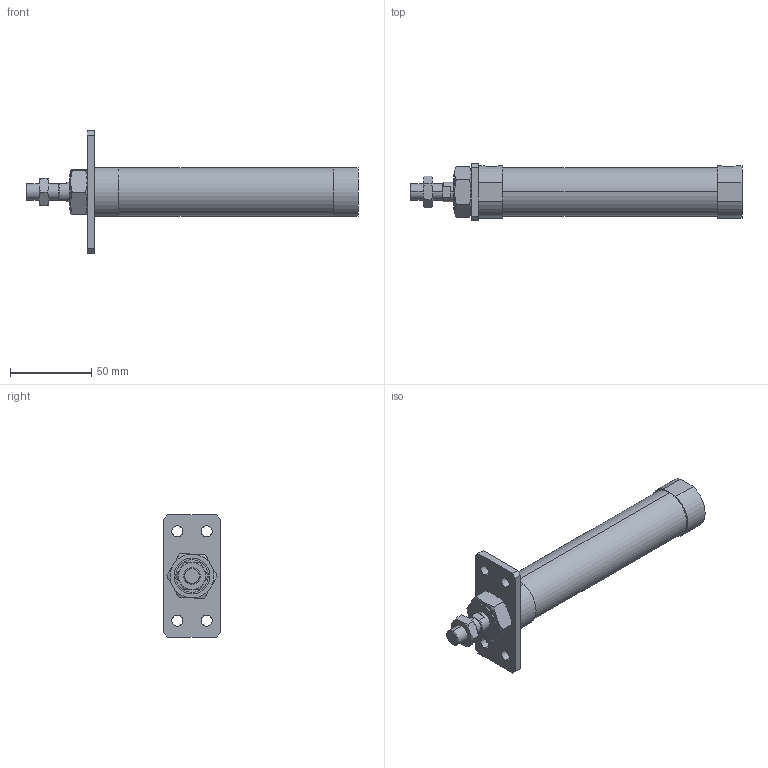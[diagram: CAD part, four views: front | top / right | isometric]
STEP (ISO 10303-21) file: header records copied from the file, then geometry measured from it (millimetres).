
FILE_DESCRIPTION (( 'STEP AP203' ), '1' );
FILE_NAME ('JGND2-25-100-A.STEP', '2016-08-04T02:39:15', ( '' ), ( '' ), 'SwSTEP 2.0', 'SolidWorks 2014', '' );
FILE_SCHEMA (( 'CONFIG_CONTROL_DESIGN' ));
Length unit declared in the file: millimetre
Products named in the file (5): J#2-25-A; J#2-25-100(P); JGND2-25-100-A
Assembly tree (4 placements, depth 2):
  JGND2-25-100-A
    J#2-25-100(P)
    (unnamed)
    (unnamed)
    J#2-25-A
Bounding box: 204 x 35 x 75 mm (x, y, z)
Volume: 135798.8 mm3; surface area: 29123.1 mm2
Topology: 4 solids, 4 shells, 109 faces, 252 edges, 152 vertices
Faces by surface type: plane 45, cylinder 32, torus 24, cone 8
Entity records: 3913 total; most frequent: CARTESIAN_POINT 956, DIRECTION 516, ORIENTED_EDGE 496, EDGE_CURVE 248, AXIS2_PLACEMENT_3D 208, VERTEX_POINT 152, EDGE_LOOP 128, ADVANCED_FACE 109
